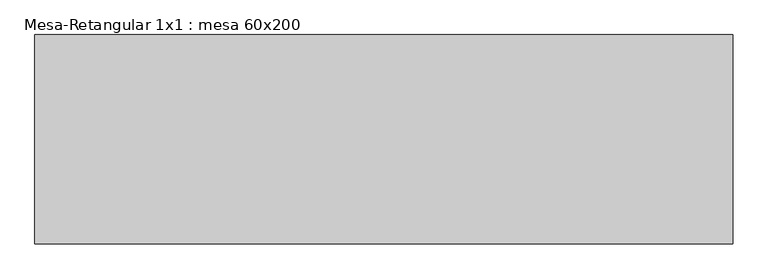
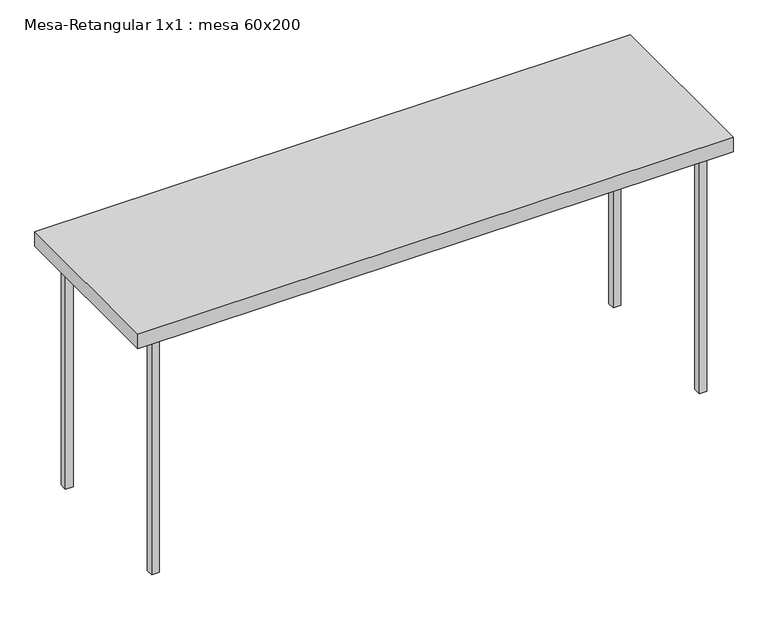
"""IFC4 building model written with IfcOpenShell, lengths in millimetres: furniture geometry, Mesa-Retangular 1x1 : mesa 60x200."""

from ifc_helpers import new_model, si_unit, frame, origin, origin_with_axes, place, context, project, spatial, polyline, outline, extrude, source, transform, mapped, element, save


def mesa_retangular_1x1_mesa_60x200_63d18a0a(model_context):
    return source(origin(), model_context, "Body", "SweptSolid", [
        extrude(outline(polyline([(-932.8946305, 238.2145104), (-932.8946305, 263.6145104), (-907.4946305, 263.6145104), (-907.4946305, 238.2145104), (-932.8946305, 238.2145104)])), origin_with_axes(), (0.0, 0.0, 1.0), 849.2),
        extrude(outline(polyline([(-932.8946305, -238.2145104), (-907.4946305, -238.2145104), (-907.4946305, -263.6145104), (-932.8946305, -263.6145104), (-932.8946305, -238.2145104)])), origin_with_axes(), (0.0, 0.0, 1.0), 849.2),
        extrude(outline(polyline([(932.8946305, 238.2145104), (907.4946305, 238.2145104), (907.4946305, 263.6145104), (932.8946305, 263.6145104), (932.8946305, 238.2145104)])), origin_with_axes(), (0.0, 0.0, 1.0), 849.2),
        extrude(outline(polyline([(932.8946305, -238.2145104), (932.8946305, -263.6145104), (907.4946305, -263.6145104), (907.4946305, -238.2145104), (932.8946305, -238.2145104)])), origin_with_axes(), (0.0, 0.0, 1.0), 849.2),
        extrude(outline(polyline([(1000.0, 300.0), (1000.0, -300.0), (-1000.0, -300.0), (-1000.0, 300.0), (1000.0, 300.0)])), frame((0.0, 0.0, 849.2), z_axis=(0.0, 0.0, 1.0), x_axis=(1.0, 0.0, 0.0)), (0.0, 0.0, 1.0), 50.8),
    ])


if __name__ == "__main__":
    model = new_model("IFC4")
    model_context = context("Model", 3, world=origin())
    ifc_project = project(units=[si_unit("LENGTHUNIT", "METRE", prefix="MILLI")], contexts=[model_context])
    site = spatial("IfcSite", under=ifc_project)
    building = spatial("IfcBuilding", under=site)
    placement = place(None, origin())
    mesa_retangular_1x1_mesa_60x200_shape = mesa_retangular_1x1_mesa_60x200_63d18a0a(model_context)
    element("IfcFurniture", 1, ObjectType="Mesa-Retangular 1x1 : mesa 60x200", at=placement, inside=building, context=model_context, shape_type="MappedRepresentation", body=[
        mapped(mesa_retangular_1x1_mesa_60x200_shape, transform((0.0, 0.0, 0.0), x_axis=(1.0, 0.0, 0.0), y_axis=(0.0, 1.0, 0.0), z_axis=(0.0, 0.0, 1.0))),
    ])
    save(model, "model.ifc")
